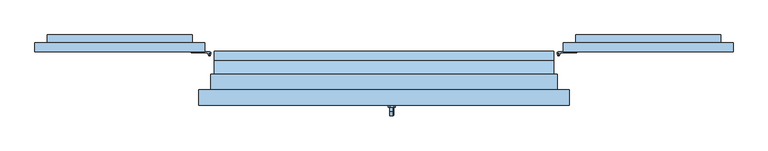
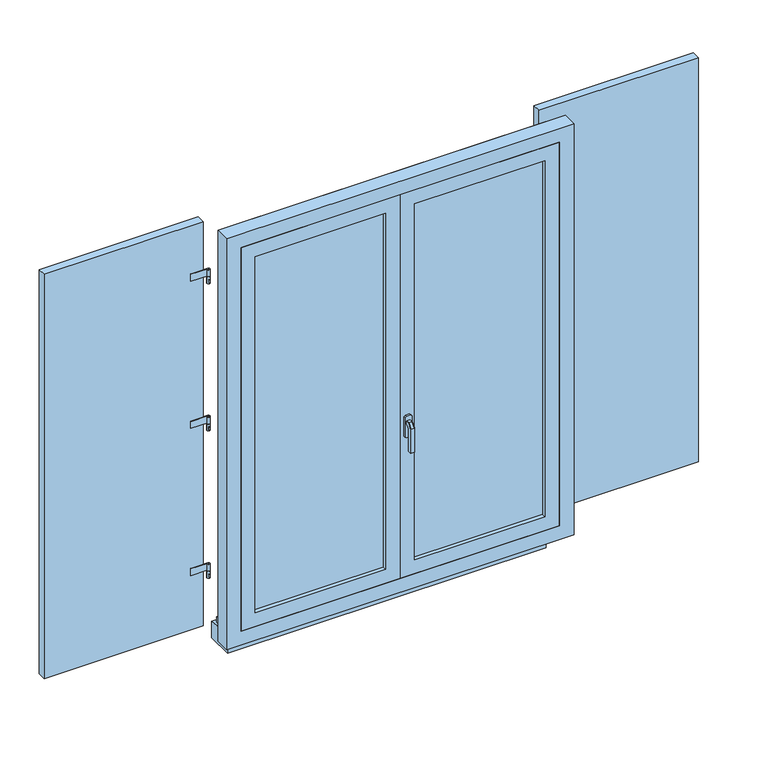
"""IFC4 building model written with IfcOpenShell, lengths in millimetres: window geometry, 2 Vantaux droits - Volets et petits bois : 1.1m x 1.45m - Appui Béton."""

from ifc_helpers import new_model, si_unit, point, frame, frame_2d, origin, place, context, project, spatial, polyline, circle_curve, trimmed, segment, composite_curve, outline, extrude, faceted_brep, source, transform, mapped, element, save
from ifc_brep_helpers import plane_surface, cylinder_surface, advanced_brep


def window_6b6e24a2(model_context):
    return source(origin(), model_context, "Body", "SolidModel", [
        extrude(outline(polyline([(-1130.0, 93.0), (-1130.0, 123.0), (-580.0, 123.0), (-580.0, 93.0), (-1130.0, 93.0)])), frame((0.0, 0.0, 775.0), z_axis=(0.0, 0.0, 1.0), x_axis=(1.0, 0.0, 0.0)), (0.0, 0.0, 1.0), 1475.0),
        advanced_brep(
        [(-560.0, 88.0, 975.0), (-570.0, 88.0, 975.0), (-560.0, 88.0, 950.0), (-570.0, 88.0, 950.0), (-567.0, 83.4174243, 955.0), (-567.0, 83.4174243, 965.0), (-563.0, 83.4174243, 965.0), (-563.0, 83.4174243, 955.0), (-563.0, 80.0, 965.0), (-567.0, 80.0, 965.0), (-567.0, 80.0, 955.0), (-563.0, 80.0, 955.0)],
        [
            (0, 1, circle_curve(frame((-565.0, 88.0, 975.0), z_axis=(0.0, 0.0, 1.0), x_axis=(-1.0, 0.0, 0.0)), 5.0)),
            (1, 0, circle_curve(frame((-565.0, 88.0, 975.0), z_axis=(0.0, 0.0, 1.0), x_axis=(-1.0, 0.0, 0.0)), 5.0)),
            (2, 3, circle_curve(frame((-565.0, 88.0, 950.0), z_axis=(0.0, 0.0, -1.0), x_axis=(-1.0, 0.0, 0.0)), 5.0)),
            (3, 2, circle_curve(frame((-565.0, 88.0, 950.0), z_axis=(0.0, 0.0, -1.0), x_axis=(-1.0, 0.0, 0.0)), 5.0)),
            (1, 3),
            (2, 0),
            (4, 5),
            (5, 6, circle_curve(frame((-565.0, 88.0, 965.0), z_axis=(0.0, 0.0, 1.0), x_axis=(-1.0, 0.0, 0.0)), 5.0)),
            (6, 7),
            (7, 4, circle_curve(frame((-565.0, 88.0, 955.0), z_axis=(0.0, 0.0, -1.0), x_axis=(-1.0, 0.0, 0.0)), 5.0)),
            (8, 6),
            (5, 9),
            (9, 8),
            (10, 4),
            (7, 11),
            (11, 10),
            (10, 9),
            (8, 11),
        ],
        [
            plane_surface(frame((-570.0, 88.0, 975.0), z_axis=(0.0, 0.0, 1.0), x_axis=(0.0, 1.0, 0.0))),
            plane_surface(frame((-570.0, 88.0, 950.0), z_axis=(0.0, 0.0, -1.0), x_axis=(0.0, -1.0, 0.0))),
            cylinder_surface(frame((-565.0, 88.0, 950.0), z_axis=(0.0, 0.0, 1.0), x_axis=(-1.0, 0.0, 0.0)), 5.0),
            plane_surface(frame((-567.0, 80.0, 965.0), z_axis=(0.0, 0.0, 1.0), x_axis=(0.0, 1.0, 0.0))),
            plane_surface(frame((-567.0, 80.0, 955.0), z_axis=(0.0, 0.0, -1.0), x_axis=(0.0, -1.0, 0.0))),
            plane_surface(frame((-567.0, 80.0, 965.0), z_axis=(-1.0, 0.0, 0.0), x_axis=(0.0, 0.0, -1.0))),
            plane_surface(frame((-563.0, 85.0, 965.0), z_axis=(1.0, 0.0, 0.0), x_axis=(0.0, 0.0, -1.0))),
            plane_surface(frame((-563.0, 80.0, 965.0), z_axis=(0.0, -1.0, 0.0), x_axis=(0.0, 0.0, -1.0))),
        ],
        [
            (0, [[1, 2]]),
            (1, [[3, 4]]),
            (2, [[5, -3, 6, -2], [7, 8, 9, 10]]),
            (2, [[-6, -4, -5, -1]]),
            (3, [[11, -8, 12, 13]]),
            (4, [[14, -10, 15, 16]]),
            (5, [[-12, -7, -14, 17]]),
            (6, [[-15, -9, -11, 18]]),
            (7, [[-17, -16, -18, -13]]),
        ],
    ),
        extrude(outline(composite_curve([segment(trimmed(circle_curve(frame_2d((-565.0, 88.0)), 5.0), [point((-565.0, 93.0))], [point((-570.0, 88.0))], False, "CARTESIAN"), True, "CONTINUOUS"), segment(polyline([(-570.0, 88.0), (-567.5, 88.0)]), True, "CONTINUOUS"), segment(trimmed(circle_curve(frame_2d((-565.0, 88.0)), 2.5), [point((-567.5, 88.0))], [point((-565.0, 90.5))], True, "CARTESIAN"), True, "CONTINUOUS"), segment(polyline([(-565.0, 90.5), (-624.3092325, 90.5), (-624.3092325, 93.0), (-565.0, 93.0)]), True, "CONTINUOUS")], self_intersect=False)), frame((0.0, 0.0, 975.0), z_axis=(0.0, 0.0, 1.0), x_axis=(1.0, 0.0, 0.0)), (0.0, 0.0, 1.0), 25.0),
        extrude(outline(composite_curve([segment(trimmed(circle_curve(frame_2d((-565.0, 88.0)), 2.5), [point((-562.5, 88.0))], [point((-567.5, 88.0))], False, "CARTESIAN"), True, "CONTINUOUS"), segment(trimmed(circle_curve(frame_2d((-565.0, 88.0)), 2.5), [point((-567.5, 88.0))], [point((-562.5, 88.0))], False, "CARTESIAN"), True, "CONTINUOUS")], self_intersect=False)), frame((0.0, 0.0, 975.0), z_axis=(0.0, 0.0, 1.0), x_axis=(1.0, 0.0, 0.0)), (0.0, 0.0, 1.0), 25.0),
        advanced_brep(
        [(-560.0, 88.0, 2050.0), (-570.0, 88.0, 2050.0), (-560.0, 88.0, 2025.0), (-570.0, 88.0, 2025.0), (-563.0, 83.4174243, 2040.0), (-563.0, 83.4174243, 2030.0), (-567.0, 83.4174243, 2030.0), (-567.0, 83.4174243, 2040.0), (-563.0, 80.0, 2040.0), (-567.0, 80.0, 2040.0), (-563.0, 80.0, 2030.0), (-567.0, 80.0, 2030.0)],
        [
            (0, 1, circle_curve(frame((-565.0, 88.0, 2050.0), z_axis=(0.0, 0.0, 1.0), x_axis=(-1.0, 0.0, 0.0)), 5.0)),
            (1, 0, circle_curve(frame((-565.0, 88.0, 2050.0), z_axis=(0.0, 0.0, 1.0), x_axis=(-1.0, 0.0, 0.0)), 5.0)),
            (2, 3, circle_curve(frame((-565.0, 88.0, 2025.0), z_axis=(0.0, 0.0, -1.0), x_axis=(-1.0, 0.0, 0.0)), 5.0)),
            (3, 2, circle_curve(frame((-565.0, 88.0, 2025.0), z_axis=(0.0, 0.0, -1.0), x_axis=(-1.0, 0.0, 0.0)), 5.0)),
            (1, 3),
            (2, 0),
            (4, 5),
            (5, 6, circle_curve(frame((-565.0, 88.0, 2030.0), z_axis=(0.0, 0.0, -1.0), x_axis=(-1.0, 0.0, 0.0)), 5.0)),
            (6, 7),
            (7, 4, circle_curve(frame((-565.0, 88.0, 2040.0), z_axis=(0.0, 0.0, 1.0), x_axis=(-1.0, 0.0, 0.0)), 5.0)),
            (8, 4),
            (7, 9),
            (9, 8),
            (10, 11),
            (11, 6),
            (5, 10),
            (9, 11),
            (10, 8),
        ],
        [
            plane_surface(frame((-570.0, 88.0, 2050.0), z_axis=(0.0, 0.0, 1.0), x_axis=(0.0, 1.0, 0.0))),
            plane_surface(frame((-570.0, 88.0, 2025.0), z_axis=(0.0, 0.0, -1.0), x_axis=(0.0, -1.0, 0.0))),
            cylinder_surface(frame((-565.0, 88.0, 2025.0), z_axis=(0.0, 0.0, 1.0), x_axis=(-1.0, 0.0, 0.0)), 5.0),
            plane_surface(frame((-563.0, 80.0, 2040.0), z_axis=(0.0, 0.0, 1.0), x_axis=(-1.0, 0.0, 0.0))),
            plane_surface(frame((-563.0, 80.0, 2030.0), z_axis=(0.0, 0.0, -1.0), x_axis=(1.0, 0.0, 0.0))),
            plane_surface(frame((-563.0, 80.0, 2040.0), z_axis=(0.0, -1.0, 0.0), x_axis=(0.0, 0.0, -1.0))),
            plane_surface(frame((-567.0, 80.0, 2040.0), z_axis=(-1.0, 0.0, 0.0), x_axis=(0.0, 0.0, -1.0))),
            plane_surface(frame((-563.0, 83.4174243, 2040.0), z_axis=(1.0, 0.0, 0.0), x_axis=(0.0, 0.0, -1.0))),
        ],
        [
            (0, [[1, 2]]),
            (1, [[3, 4]]),
            (2, [[5, -3, 6, -2], [7, 8, 9, 10]]),
            (2, [[-6, -4, -5, -1]]),
            (3, [[11, -10, 12, 13]]),
            (4, [[14, 15, -8, 16]]),
            (5, [[17, -14, 18, -13]]),
            (6, [[-9, -15, -17, -12]]),
            (7, [[-18, -16, -7, -11]]),
        ],
    ),
        extrude(outline(polyline([(-563.0, 80.0), (-567.0, 80.0), (-567.0, 83.4174243), (-563.0, 83.4174243), (-563.0, 80.0)])), frame((0.0, 0.0, 1492.5), z_axis=(0.0, 0.0, 1.0), x_axis=(1.0, 0.0, 0.0)), (0.0, 0.0, 1.0), 10.0),
        extrude(outline(composite_curve([segment(trimmed(circle_curve(frame_2d((-565.0, 88.0)), 5.0), [point((-565.0, 93.0))], [point((-570.0, 88.0))], False, "CARTESIAN"), True, "CONTINUOUS"), segment(polyline([(-570.0, 88.0), (-567.5, 88.0)]), True, "CONTINUOUS"), segment(trimmed(circle_curve(frame_2d((-565.0, 88.0)), 2.5), [point((-567.5, 88.0))], [point((-562.5, 88.0))], True, "CARTESIAN"), True, "CONTINUOUS"), segment(trimmed(circle_curve(frame_2d((-565.0, 88.0)), 2.5), [point((-562.5, 88.0))], [point((-565.0, 90.5))], True, "CARTESIAN"), True, "CONTINUOUS"), segment(polyline([(-565.0, 90.5), (-624.3092325, 90.5), (-624.3092325, 93.0), (-565.0, 93.0)]), True, "CONTINUOUS")], self_intersect=False)), frame((0.0, 0.0, 1512.5), z_axis=(0.0, 0.0, 1.0), x_axis=(1.0, 0.0, 0.0)), (0.0, 0.0, 1.0), 25.0),
        extrude(outline(composite_curve([segment(trimmed(circle_curve(frame_2d((-565.0, 88.0)), 2.5), [point((-562.5, 88.0))], [point((-567.5, 88.0))], False, "CARTESIAN"), True, "CONTINUOUS"), segment(trimmed(circle_curve(frame_2d((-565.0, 88.0)), 2.5), [point((-567.5, 88.0))], [point((-562.5, 88.0))], False, "CARTESIAN"), True, "CONTINUOUS")], self_intersect=False)), frame((0.0, 0.0, 1512.5), z_axis=(0.0, 0.0, 1.0), x_axis=(1.0, 0.0, 0.0)), (0.0, 0.0, 1.0), 25.0),
        extrude(outline(composite_curve([segment(trimmed(circle_curve(frame_2d((-565.0, 88.0)), 5.0), [point((-560.0, 88.0))], [point((-570.0, 88.0))], False, "CARTESIAN"), True, "CONTINUOUS"), segment(trimmed(circle_curve(frame_2d((-565.0, 88.0)), 5.0), [point((-570.0, 88.0))], [point((-560.0, 88.0))], False, "CARTESIAN"), True, "CONTINUOUS")], self_intersect=False)), frame((0.0, 0.0, 1487.5), z_axis=(0.0, 0.0, 1.0), x_axis=(1.0, 0.0, 0.0)), (0.0, 0.0, 1.0), 25.0),
        extrude(outline(composite_curve([segment(trimmed(circle_curve(frame_2d((-565.0, 88.0)), 5.0), [point((-565.0, 93.0))], [point((-570.0, 88.0))], False, "CARTESIAN"), True, "CONTINUOUS"), segment(polyline([(-570.0, 88.0), (-567.5, 88.0)]), True, "CONTINUOUS"), segment(trimmed(circle_curve(frame_2d((-565.0, 88.0)), 2.5), [point((-567.5, 88.0))], [point((-565.0, 90.5))], True, "CARTESIAN"), True, "CONTINUOUS"), segment(polyline([(-565.0, 90.5), (-624.3092325, 90.5), (-624.3092325, 93.0), (-565.0, 93.0)]), True, "CONTINUOUS")], self_intersect=False)), frame((0.0, 0.0, 2050.0), z_axis=(0.0, 0.0, 1.0), x_axis=(1.0, 0.0, 0.0)), (0.0, 0.0, 1.0), 25.0),
        extrude(outline(composite_curve([segment(trimmed(circle_curve(frame_2d((-565.0, 88.0)), 2.5), [point((-562.5, 88.0))], [point((-567.5, 88.0))], False, "CARTESIAN"), True, "CONTINUOUS"), segment(trimmed(circle_curve(frame_2d((-565.0, 88.0)), 2.5), [point((-567.5, 88.0))], [point((-562.5, 88.0))], False, "CARTESIAN"), True, "CONTINUOUS")], self_intersect=False)), frame((0.0, 0.0, 2050.0), z_axis=(0.0, 0.0, 1.0), x_axis=(1.0, 0.0, 0.0)), (0.0, 0.0, 1.0), 25.0),
        extrude(outline(polyline([(2010.0, -1090.0), (1015.0, -705.7586715), (1015.0, -620.0007252), (2010.0, -1004.2420538), (2010.0, -1090.0)])), frame((0.0, 123.0, 0.0), z_axis=(0.0, 1.0, 0.0), x_axis=(0.0, 0.0, 1.0)), (0.0, 0.0, 1.0), 25.0),
        extrude(outline(polyline([(-620.0, 148.0), (-620.0, 123.0), (-1090.0, 123.0), (-1090.0, 148.0), (-620.0, 148.0)])), frame((0.0, 0.0, 2010.0), z_axis=(0.0, 0.0, 1.0), x_axis=(1.0, 0.0, 0.0)), (0.0, 0.0, 1.0), 80.0),
        extrude(outline(polyline([(-620.0, 148.0), (-620.0, 123.0), (-1090.0, 123.0), (-1090.0, 148.0), (-620.0, 148.0)])), frame((0.0, 0.0, 935.0), z_axis=(0.0, 0.0, 1.0), x_axis=(1.0, 0.0, 0.0)), (0.0, 0.0, 1.0), 80.0),
        extrude(outline(polyline([(1130.0, 93.0), (580.0, 93.0), (580.0, 123.0), (1130.0, 123.0), (1130.0, 93.0)])), frame((0.0, 0.0, 775.0), z_axis=(0.0, 0.0, 1.0), x_axis=(1.0, 0.0, 0.0)), (0.0, 0.0, 1.0), 1475.0),
        advanced_brep(
        [(560.0, 88.0, 975.0), (570.0, 88.0, 975.0), (560.0, 88.0, 950.0), (570.0, 88.0, 950.0), (567.0, 83.4174243, 955.0), (563.0, 83.4174243, 955.0), (563.0, 83.4174243, 965.0), (567.0, 83.4174243, 965.0), (563.0, 80.0, 965.0), (567.0, 80.0, 965.0), (567.0, 80.0, 955.0), (563.0, 80.0, 955.0)],
        [
            (0, 1, circle_curve(frame((565.0, 88.0, 975.0), z_axis=(0.0, 0.0, 1.0), x_axis=(1.0, 0.0, 0.0)), 5.0)),
            (1, 0, circle_curve(frame((565.0, 88.0, 975.0), z_axis=(0.0, 0.0, 1.0), x_axis=(1.0, 0.0, 0.0)), 5.0)),
            (2, 3, circle_curve(frame((565.0, 88.0, 950.0), z_axis=(0.0, 0.0, -1.0), x_axis=(1.0, 0.0, 0.0)), 5.0)),
            (3, 2, circle_curve(frame((565.0, 88.0, 950.0), z_axis=(0.0, 0.0, -1.0), x_axis=(1.0, 0.0, 0.0)), 5.0)),
            (0, 2),
            (3, 1),
            (4, 5, circle_curve(frame((565.0, 88.0, 955.0), z_axis=(0.0, 0.0, -1.0), x_axis=(1.0, 0.0, 0.0)), 5.0)),
            (5, 6),
            (6, 7, circle_curve(frame((565.0, 88.0, 965.0), z_axis=(0.0, 0.0, 1.0), x_axis=(1.0, 0.0, 0.0)), 5.0)),
            (7, 4),
            (8, 9),
            (9, 7),
            (6, 8),
            (10, 11),
            (11, 5),
            (4, 10),
            (9, 10),
            (11, 8),
        ],
        [
            plane_surface(frame((570.0, 88.0, 975.0), z_axis=(0.0, 0.0, 1.0), x_axis=(0.0, 1.0, 0.0))),
            plane_surface(frame((570.0, 88.0, 950.0), z_axis=(0.0, 0.0, -1.0), x_axis=(0.0, -1.0, 0.0))),
            cylinder_surface(frame((565.0, 88.0, 950.0), z_axis=(0.0, 0.0, 1.0), x_axis=(1.0, 0.0, 0.0)), 5.0),
            plane_surface(frame((567.0, 80.0, 965.0), z_axis=(0.0, 0.0, 1.0), x_axis=(0.0, 1.0, 0.0))),
            plane_surface(frame((567.0, 80.0, 955.0), z_axis=(0.0, 0.0, -1.0), x_axis=(0.0, -1.0, 0.0))),
            plane_surface(frame((567.0, 80.0, 965.0), z_axis=(1.0, 0.0, 0.0), x_axis=(0.0, 0.0, -1.0))),
            plane_surface(frame((563.0, 85.0, 965.0), z_axis=(-1.0, 0.0, 0.0), x_axis=(0.0, 0.0, -1.0))),
            plane_surface(frame((563.0, 80.0, 965.0), z_axis=(0.0, -1.0, 0.0), x_axis=(0.0, 0.0, -1.0))),
        ],
        [
            (0, [[1, 2]]),
            (1, [[3, 4]]),
            (2, [[-1, 5, -4, 6], [7, 8, 9, 10]]),
            (2, [[-2, -6, -3, -5]]),
            (3, [[11, 12, -9, 13]]),
            (4, [[14, 15, -7, 16]]),
            (5, [[17, -16, -10, -12]]),
            (6, [[18, -13, -8, -15]]),
            (7, [[-11, -18, -14, -17]]),
        ],
    ),
        extrude(outline(composite_curve([segment(polyline([(565.0, 93.0), (624.3092325, 93.0), (624.3092325, 90.5), (565.0, 90.5)]), True, "CONTINUOUS"), segment(trimmed(circle_curve(frame_2d((565.0, 88.0)), 2.5), [point((565.0, 90.5))], [point((567.5, 88.0))], True, "CARTESIAN"), True, "CONTINUOUS"), segment(polyline([(567.5, 88.0), (570.0, 88.0)]), True, "CONTINUOUS"), segment(trimmed(circle_curve(frame_2d((565.0, 88.0)), 5.0), [point((570.0, 88.0))], [point((565.0, 93.0))], False, "CARTESIAN"), True, "CONTINUOUS")], self_intersect=False)), frame((0.0, 0.0, 975.0), z_axis=(0.0, 0.0, 1.0), x_axis=(1.0, 0.0, 0.0)), (0.0, 0.0, 1.0), 25.0),
        extrude(outline(composite_curve([segment(trimmed(circle_curve(frame_2d((565.0, 88.0)), 2.5), [point((562.5, 88.0))], [point((567.5, 88.0))], False, "CARTESIAN"), True, "CONTINUOUS"), segment(trimmed(circle_curve(frame_2d((565.0, 88.0)), 2.5), [point((567.5, 88.0))], [point((562.5, 88.0))], False, "CARTESIAN"), True, "CONTINUOUS")], self_intersect=False)), frame((0.0, 0.0, 975.0), z_axis=(0.0, 0.0, 1.0), x_axis=(1.0, 0.0, 0.0)), (0.0, 0.0, 1.0), 25.0),
        advanced_brep(
        [(560.0, 88.0, 2050.0), (570.0, 88.0, 2050.0), (560.0, 88.0, 2025.0), (570.0, 88.0, 2025.0), (563.0, 83.4174243, 2040.0), (567.0, 83.4174243, 2040.0), (567.0, 83.4174243, 2030.0), (563.0, 83.4174243, 2030.0), (563.0, 80.0, 2040.0), (567.0, 80.0, 2040.0), (563.0, 80.0, 2030.0), (567.0, 80.0, 2030.0)],
        [
            (0, 1, circle_curve(frame((565.0, 88.0, 2050.0), z_axis=(0.0, 0.0, 1.0), x_axis=(1.0, 0.0, 0.0)), 5.0)),
            (1, 0, circle_curve(frame((565.0, 88.0, 2050.0), z_axis=(0.0, 0.0, 1.0), x_axis=(1.0, 0.0, 0.0)), 5.0)),
            (2, 3, circle_curve(frame((565.0, 88.0, 2025.0), z_axis=(0.0, 0.0, -1.0), x_axis=(1.0, 0.0, 0.0)), 5.0)),
            (3, 2, circle_curve(frame((565.0, 88.0, 2025.0), z_axis=(0.0, 0.0, -1.0), x_axis=(1.0, 0.0, 0.0)), 5.0)),
            (0, 2),
            (3, 1),
            (4, 5, circle_curve(frame((565.0, 88.0, 2040.0), z_axis=(0.0, 0.0, 1.0), x_axis=(1.0, 0.0, 0.0)), 5.0)),
            (5, 6),
            (6, 7, circle_curve(frame((565.0, 88.0, 2030.0), z_axis=(0.0, 0.0, -1.0), x_axis=(1.0, 0.0, 0.0)), 5.0)),
            (7, 4),
            (8, 9),
            (9, 5),
            (4, 8),
            (10, 7),
            (6, 11),
            (11, 10),
            (8, 10),
            (11, 9),
        ],
        [
            plane_surface(frame((570.0, 88.0, 2050.0), z_axis=(0.0, 0.0, 1.0), x_axis=(0.0, 1.0, 0.0))),
            plane_surface(frame((570.0, 88.0, 2025.0), z_axis=(0.0, 0.0, -1.0), x_axis=(0.0, -1.0, 0.0))),
            cylinder_surface(frame((565.0, 88.0, 2025.0), z_axis=(0.0, 0.0, 1.0), x_axis=(1.0, 0.0, 0.0)), 5.0),
            plane_surface(frame((563.0, 80.0, 2040.0), z_axis=(0.0, 0.0, 1.0), x_axis=(1.0, 0.0, 0.0))),
            plane_surface(frame((563.0, 80.0, 2030.0), z_axis=(0.0, 0.0, -1.0), x_axis=(-1.0, 0.0, 0.0))),
            plane_surface(frame((563.0, 80.0, 2040.0), z_axis=(0.0, -1.0, 0.0), x_axis=(0.0, 0.0, -1.0))),
            plane_surface(frame((567.0, 80.0, 2040.0), z_axis=(1.0, 0.0, 0.0), x_axis=(0.0, 0.0, -1.0))),
            plane_surface(frame((563.0, 83.4174243, 2040.0), z_axis=(-1.0, 0.0, 0.0), x_axis=(0.0, 0.0, -1.0))),
        ],
        [
            (0, [[1, 2]]),
            (1, [[3, 4]]),
            (2, [[-1, 5, -4, 6], [7, 8, 9, 10]]),
            (2, [[-2, -6, -3, -5]]),
            (3, [[11, 12, -7, 13]]),
            (4, [[14, -9, 15, 16]]),
            (5, [[-11, 17, -16, 18]]),
            (6, [[-12, -18, -15, -8]]),
            (7, [[-13, -10, -14, -17]]),
        ],
    ),
        extrude(outline(polyline([(563.0, 80.0), (563.0, 83.4174243), (567.0, 83.4174243), (567.0, 80.0), (563.0, 80.0)])), frame((0.0, 0.0, 1492.5), z_axis=(0.0, 0.0, 1.0), x_axis=(1.0, 0.0, 0.0)), (0.0, 0.0, 1.0), 10.0),
        extrude(outline(composite_curve([segment(polyline([(565.0, 93.0), (624.3092325, 93.0), (624.3092325, 90.5), (565.0, 90.5)]), True, "CONTINUOUS"), segment(trimmed(circle_curve(frame_2d((565.0, 88.0)), 2.5), [point((565.0, 90.5))], [point((562.5, 88.0))], True, "CARTESIAN"), True, "CONTINUOUS"), segment(trimmed(circle_curve(frame_2d((565.0, 88.0)), 2.5), [point((562.5, 88.0))], [point((567.5, 88.0))], True, "CARTESIAN"), True, "CONTINUOUS"), segment(polyline([(567.5, 88.0), (570.0, 88.0)]), True, "CONTINUOUS"), segment(trimmed(circle_curve(frame_2d((565.0, 88.0)), 5.0), [point((570.0, 88.0))], [point((565.0, 93.0))], False, "CARTESIAN"), True, "CONTINUOUS")], self_intersect=False)), frame((0.0, 0.0, 1512.5), z_axis=(0.0, 0.0, 1.0), x_axis=(1.0, 0.0, 0.0)), (0.0, 0.0, 1.0), 25.0),
        extrude(outline(composite_curve([segment(trimmed(circle_curve(frame_2d((565.0, 88.0)), 2.5), [point((562.5, 88.0))], [point((567.5, 88.0))], False, "CARTESIAN"), True, "CONTINUOUS"), segment(trimmed(circle_curve(frame_2d((565.0, 88.0)), 2.5), [point((567.5, 88.0))], [point((562.5, 88.0))], False, "CARTESIAN"), True, "CONTINUOUS")], self_intersect=False)), frame((0.0, 0.0, 1512.5), z_axis=(0.0, 0.0, 1.0), x_axis=(1.0, 0.0, 0.0)), (0.0, 0.0, 1.0), 25.0),
        extrude(outline(composite_curve([segment(trimmed(circle_curve(frame_2d((565.0, 88.0)), 5.0), [point((560.0, 88.0))], [point((570.0, 88.0))], False, "CARTESIAN"), True, "CONTINUOUS"), segment(trimmed(circle_curve(frame_2d((565.0, 88.0)), 5.0), [point((570.0, 88.0))], [point((560.0, 88.0))], False, "CARTESIAN"), True, "CONTINUOUS")], self_intersect=False)), frame((0.0, 0.0, 1487.5), z_axis=(0.0, 0.0, 1.0), x_axis=(1.0, 0.0, 0.0)), (0.0, 0.0, 1.0), 25.0),
        extrude(outline(composite_curve([segment(polyline([(565.0, 93.0), (624.3092325, 93.0), (624.3092325, 90.5), (565.0, 90.5)]), True, "CONTINUOUS"), segment(trimmed(circle_curve(frame_2d((565.0, 88.0)), 2.5), [point((565.0, 90.5))], [point((567.5, 88.0))], True, "CARTESIAN"), True, "CONTINUOUS"), segment(polyline([(567.5, 88.0), (570.0, 88.0)]), True, "CONTINUOUS"), segment(trimmed(circle_curve(frame_2d((565.0, 88.0)), 5.0), [point((570.0, 88.0))], [point((565.0, 93.0))], False, "CARTESIAN"), True, "CONTINUOUS")], self_intersect=False)), frame((0.0, 0.0, 2050.0), z_axis=(0.0, 0.0, 1.0), x_axis=(1.0, 0.0, 0.0)), (0.0, 0.0, 1.0), 25.0),
        extrude(outline(composite_curve([segment(trimmed(circle_curve(frame_2d((565.0, 88.0)), 2.5), [point((562.5, 88.0))], [point((567.5, 88.0))], False, "CARTESIAN"), True, "CONTINUOUS"), segment(trimmed(circle_curve(frame_2d((565.0, 88.0)), 2.5), [point((567.5, 88.0))], [point((562.5, 88.0))], False, "CARTESIAN"), True, "CONTINUOUS")], self_intersect=False)), frame((0.0, 0.0, 2050.0), z_axis=(0.0, 0.0, 1.0), x_axis=(1.0, 0.0, 0.0)), (0.0, 0.0, 1.0), 25.0),
        extrude(outline(polyline([(2010.0, 1090.0), (2010.0, 1004.2420538), (1015.0, 620.0007252), (1015.0, 705.7586715), (2010.0, 1090.0)])), frame((0.0, 123.0, 0.0), z_axis=(0.0, 1.0, 0.0), x_axis=(0.0, 0.0, 1.0)), (0.0, 0.0, 1.0), 25.0),
        extrude(outline(polyline([(620.0, 148.0), (1090.0, 148.0), (1090.0, 123.0), (620.0, 123.0), (620.0, 148.0)])), frame((0.0, 0.0, 2010.0), z_axis=(0.0, 0.0, 1.0), x_axis=(1.0, 0.0, 0.0)), (0.0, 0.0, 1.0), 80.0),
        extrude(outline(polyline([(620.0, 148.0), (1090.0, 148.0), (1090.0, 123.0), (620.0, 123.0), (620.0, 148.0)])), frame((0.0, 0.0, 935.0), z_axis=(0.0, 0.0, 1.0), x_axis=(1.0, 0.0, 0.0)), (0.0, 0.0, 1.0), 80.0),
        faceted_brep([(30.6460097, -86.0, 1422.0339292), (32.0339292, -86.0, 1420.6460097), (32.0339292, -86.0, 1409.3323012), (30.6676988, -86.0, 1407.9660708), (19.3323012, -86.0, 1407.9660708), (17.9660708, -86.0, 1409.3323012), (17.9660708, -86.0, 1420.6460097), (19.3539903, -86.0, 1422.0339292), (30.6460097, -98.9135489, 1422.0339292), (32.0339292, -98.3386538, 1420.6460097), (32.0339292, -111.6460097, 1407.3386538), (32.0339292, -111.6460097, 1320.0), (32.0339292, -100.3323012, 1320.0), (32.0339292, -100.3323012, 1402.6523623), (32.0339292, -93.6523623, 1409.3323012), (30.6676988, -93.0864511, 1407.9660708), (19.3323012, -93.0864511, 1407.9660708), (17.9660708, -93.6523623, 1409.3323012), (17.9660708, -100.3323012, 1402.6523623), (17.9660708, -100.3323012, 1320.0), (17.9660708, -111.6460097, 1320.0), (17.9660708, -111.6460097, 1407.3386538), (17.9660708, -98.3386538, 1420.6460097), (19.3539903, -98.9135489, 1422.0339292), (30.6460097, -113.0339292, 1407.9135489), (30.6676988, -98.9660708, 1402.0864511), (19.3323012, -98.9660708, 1402.0864511), (19.3539903, -113.0339292, 1407.9135489), (30.6460097, -113.0339292, 1320.0), (19.3539903, -113.0339292, 1320.0), (19.3323012, -98.9660708, 1320.0), (30.6676988, -98.9660708, 1320.0)], [[[0, 1, 2, 3, 4, 5, 6, 7]], [[1, 0, 8, 9]], [[2, 1, 9, 10, 11, 12, 13, 14]], [[3, 2, 14, 15]], [[4, 3, 15, 16]], [[5, 4, 16, 17]], [[6, 5, 17, 18, 19, 20, 21, 22]], [[7, 6, 22, 23]], [[0, 7, 23, 8]], [[9, 8, 24, 10]], [[15, 14, 13, 25]], [[16, 15, 25, 26]], [[17, 16, 26, 18]], [[23, 22, 21, 27]], [[8, 23, 27, 24]], [[28, 29, 20, 19, 30, 31, 12, 11]], [[10, 24, 28, 11]], [[25, 13, 12, 31]], [[26, 25, 31, 30]], [[18, 26, 30, 19]], [[27, 21, 20, 29]], [[24, 27, 29, 28]]]),
        extrude(outline(polyline([(1440.0, 32.0), (1440.0, 18.0), (1435.0, 13.0), (1365.0, 13.0), (1360.0, 18.0), (1360.0, 32.0), (1365.0, 37.0), (1435.0, 37.0), (1440.0, 32.0)])), frame((0.0, -86.0, 0.0), z_axis=(0.0, 1.0, 0.0), x_axis=(0.0, 0.0, 1.0)), (0.0, 0.0, 1.0), 6.0),
        extrude(outline(polyline([(0.0, 800.0), (50.0, 800.0), (50.0, 785.0), (95.0, 780.2703094), (95.0, 720.0), (0.0, 720.0), (0.0, 800.0)])), frame((-550.0, 0.0, 0.0), z_axis=(1.0, 0.0, 0.0), x_axis=(0.0, 1.0, 0.0)), (0.0, 0.0, 1.0), 1100.0),
        extrude(outline(polyline([(850.0, 0.0), (2250.0, 0.0), (2250.0, -550.0), (850.0, -550.0), (850.0, 0.0)]), holes=[polyline([(900.0, -500.0), (2200.0, -500.0), (2200.0, -50.0), (900.0, -50.0), (900.0, -500.0)])]), frame((0.0, -80.0, 0.0), z_axis=(0.0, 1.0, 0.0), x_axis=(0.0, 0.0, 1.0)), (0.0, 0.0, 1.0), 40.0),
        extrude(outline(polyline([(50.0, -54.0), (500.0, -54.0), (500.0, -66.0), (50.0, -66.0), (50.0, -54.0)])), frame((0.0, 0.0, 900.0), z_axis=(0.0, 0.0, 1.0), x_axis=(1.0, 0.0, 0.0)), (0.0, 0.0, 1.0), 1300.0),
        extrude(outline(polyline([(-500.0, -54.0), (-50.0, -54.0), (-50.0, -66.0), (-500.0, -66.0), (-500.0, -54.0)])), frame((0.0, 0.0, 900.0), z_axis=(0.0, 0.0, 1.0), x_axis=(1.0, 0.0, 0.0)), (0.0, 0.0, 1.0), 1300.0),
        extrude(outline(polyline([(850.0, 550.0), (2250.0, 550.0), (2250.0, 0.0), (850.0, 0.0), (850.0, 550.0)]), holes=[polyline([(900.0, 50.0), (2200.0, 50.0), (2200.0, 500.0), (900.0, 500.0), (900.0, 50.0)])]), frame((0.0, -80.0, 0.0), z_axis=(0.0, 1.0, 0.0), x_axis=(0.0, 0.0, 1.0)), (0.0, 0.0, 1.0), 40.0),
        faceted_brep([(-600.0, -80.0, 800.0), (-600.0, -30.0, 800.0), (-550.0, -30.0, 800.0), (-550.0, 55.0, 800.0), (550.0, 55.0, 800.0), (550.0, -30.0, 800.0), (600.0, -30.0, 800.0), (600.0, -80.0, 800.0), (-600.0, -80.0, 2300.0), (-600.0, -30.0, 2300.0), (600.0, -30.0, 2300.0), (550.0, -30.0, 839.3761425), (-550.0, -30.0, 839.3761425), (-535.0, -30.0, 2235.0), (-535.0, -30.0, 865.0), (535.0, -30.0, 865.0), (535.0, -30.0, 2235.0), (-550.0, 65.0, 813.9209692), (-550.0, 65.0, 795.0), (-550.0, 55.0, 795.0), (550.0, 55.0, 795.0), (550.0, 65.0, 795.0), (550.0, 65.0, 813.9209692), (600.0, -80.0, 2300.0), (550.0, -80.0, 2250.0), (550.0, -80.0, 850.0), (-550.0, -80.0, 850.0), (-550.0, -80.0, 2250.0), (-535.0, -40.0, 2235.0), (-535.0, -40.0, 865.0), (535.0, -40.0, 865.0), (535.0, -40.0, 2235.0), (550.0, -40.0, 2250.0), (-550.0, -40.0, 2250.0), (-550.0, -40.0, 850.0), (550.0, -40.0, 850.0)], [[[0, 1, 2, 3, 4, 5, 6, 7]], [[1, 0, 8, 9]], [[1, 9, 10, 6, 5, 11, 12, 2], [13, 14, 15, 16]], [[12, 17, 18, 19, 3, 2]], [[3, 19, 20, 4]], [[4, 20, 21, 22, 11, 5]], [[6, 10, 23, 7]], [[0, 7, 23, 8], [24, 25, 26, 27]], [[13, 28, 29, 14]], [[29, 30, 15, 14]], [[31, 16, 15, 30]], [[17, 12, 11, 22]], [[32, 33, 34, 35], [28, 31, 30, 29]], [[34, 33, 27, 26]], [[26, 25, 35, 34]], [[24, 32, 35, 25]], [[18, 17, 22, 21]], [[19, 18, 21, 20]], [[13, 16, 31, 28]], [[33, 32, 24, 27]], [[10, 9, 8, 23]]]),
        extrude(outline(polyline([(800.0, -560.0), (800.0, -550.0), (2250.0, -550.0), (2250.0, 550.0), (800.0, 550.0), (800.0, 560.0), (2260.0, 560.0), (2260.0, -560.0), (800.0, -560.0)])), frame((0.0, -30.0, 0.0), z_axis=(0.0, 1.0, 0.0), x_axis=(0.0, 0.0, 1.0)), (0.0, 0.0, 1.0), 50.0),
        extrude(outline(polyline([(20.0, -32.0), (20.0, -40.0), (-20.0, -40.0), (-20.0, -32.0), (20.0, -32.0)])), frame((0.0, 0.0, 865.0), z_axis=(0.0, 0.0, 1.0), x_axis=(1.0, 0.0, 0.0)), (0.0, 0.0, 1.0), 1370.0),
    ])


if __name__ == "__main__":
    model = new_model("IFC4")
    model_context = context("Model", 3, world=origin())
    ifc_project = project(units=[si_unit("LENGTHUNIT", "METRE", prefix="MILLI")], contexts=[model_context])
    site = spatial("IfcSite", under=ifc_project)
    building = spatial("IfcBuilding", under=site)
    placement = place(None, origin())
    window_shape = window_6b6e24a2(model_context)
    element("IfcWindow", 1, ObjectType="2 Vantaux droits - Volets et petits bois : 1.1m x 1.45m - Appui Béton", at=placement, inside=building, context=model_context, shape_type="MappedRepresentation", body=[
        mapped(window_shape, transform((0.0, 0.0, 0.0), x_axis=(1.0, 0.0, 0.0), y_axis=(0.0, 1.0, 0.0), z_axis=(0.0, 0.0, 1.0))),
    ])
    save(model, "model.ifc")
